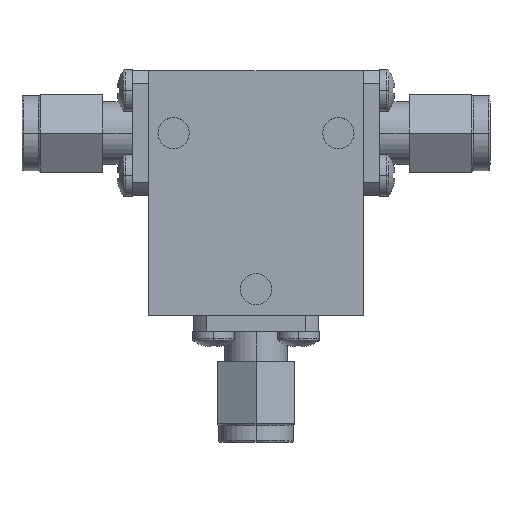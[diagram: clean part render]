
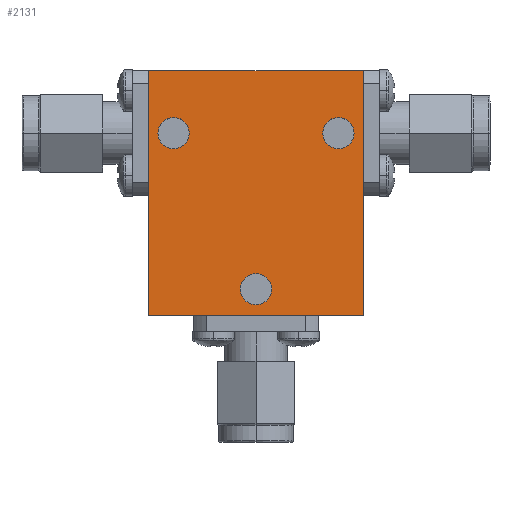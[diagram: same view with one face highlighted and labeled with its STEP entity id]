
A CAD part, top view. The second image highlights one B-rep face of the part: STEP entity #2131.
In plain terms, the highlighted planar face has unit normal (0, 0, 1) as drawn and (0, 0, -1) by its records, which use the part's own axes.
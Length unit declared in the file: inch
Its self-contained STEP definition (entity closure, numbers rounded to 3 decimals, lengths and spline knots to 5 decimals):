
#77 = LINE ( 'NONE', #1106, #392 ) ;
#78 = VERTEX_POINT ( 'NONE', #2729 ) ;
#102 = VECTOR ( 'NONE', #2471, 39.37008 ) ;
#125 = EDGE_CURVE ( 'NONE', #1707, #1339, #1255, .T. ) ;
#160 = DIRECTION ( 'NONE',  ( 1., 0., 0. ) ) ;
#164 = VERTEX_POINT ( 'NONE', #3027 ) ;
#223 = ORIENTED_EDGE ( 'NONE', *, *, #3215, .F. ) ;
#238 = VERTEX_POINT ( 'NONE', #3048 ) ;
#267 = CARTESIAN_POINT ( 'NONE',  ( -0.33, 0.24, -0.25 ) ) ;
#287 = VECTOR ( 'NONE', #1264, 39.37008 ) ;
#294 = DIRECTION ( 'NONE',  ( 0., -1., 0. ) ) ;
#311 = EDGE_CURVE ( 'NONE', #2866, #2734, #3287, .T. ) ;
#329 = EDGE_CURVE ( 'NONE', #2734, #2866, #2590, .T. ) ;
#392 = VECTOR ( 'NONE', #294, 39.37008 ) ;
#410 = CARTESIAN_POINT ( 'NONE',  ( -0.3925, 0.24, -0.25 ) ) ;
#495 = CARTESIAN_POINT ( 'NONE',  ( 0., 0., -0.25 ) ) ;
#543 = CARTESIAN_POINT ( 'NONE',  ( -0.43, -0.49, -0.25 ) ) ;
#630 = AXIS2_PLACEMENT_3D ( 'NONE', #495, #2723, #1752 ) ;
#671 = CARTESIAN_POINT ( 'NONE',  ( 0., -0.385, -0.25 ) ) ;
#748 = CIRCLE ( 'NONE', #899, 0.0625 ) ;
#766 = ORIENTED_EDGE ( 'NONE', *, *, #329, .T. ) ;
#793 = EDGE_CURVE ( 'NONE', #164, #1815, #1653, .T. ) ;
#801 = CARTESIAN_POINT ( 'NONE',  ( -0.2675, 0.24, -0.25 ) ) ;
#850 = CARTESIAN_POINT ( 'NONE',  ( 0.2675, 0.24, -0.25 ) ) ;
#897 = CARTESIAN_POINT ( 'NONE',  ( 0.33, 0.24, -0.25 ) ) ;
#899 = AXIS2_PLACEMENT_3D ( 'NONE', #897, #2666, #1636 ) ;
#978 = CARTESIAN_POINT ( 'NONE',  ( 0.43, -0.49, -0.25 ) ) ;
#1050 = CARTESIAN_POINT ( 'NONE',  ( -0.33, 0.24, -0.25 ) ) ;
#1106 = CARTESIAN_POINT ( 'NONE',  ( -0.43, 0.49, -0.25 ) ) ;
#1118 = VERTEX_POINT ( 'NONE', #1866 ) ;
#1119 = ORIENTED_EDGE ( 'NONE', *, *, #2506, .T. ) ;
#1184 = CARTESIAN_POINT ( 'NONE',  ( 0., -0.385, -0.25 ) ) ;
#1207 = EDGE_CURVE ( 'NONE', #2769, #78, #2704, .T. ) ;
#1255 = LINE ( 'NONE', #2272, #287 ) ;
#1264 = DIRECTION ( 'NONE',  ( 1., 0., 0. ) ) ;
#1287 = CARTESIAN_POINT ( 'NONE',  ( -0.0625, -0.385, -0.25 ) ) ;
#1291 = AXIS2_PLACEMENT_3D ( 'NONE', #1488, #3278, #2229 ) ;
#1311 = DIRECTION ( 'NONE',  ( 0., 0., 1. ) ) ;
#1321 = FACE_BOUND ( 'NONE', #3147, .T. ) ;
#1339 = VERTEX_POINT ( 'NONE', #978 ) ;
#1432 = ORIENTED_EDGE ( 'NONE', *, *, #2595, .T. ) ;
#1463 = LINE ( 'NONE', #2974, #102 ) ;
#1465 = AXIS2_PLACEMENT_3D ( 'NONE', #1184, #3251, #1716 ) ;
#1472 = EDGE_LOOP ( 'NONE', ( #2333, #2377, #3184, #223 ) ) ;
#1488 = CARTESIAN_POINT ( 'NONE',  ( 0.33, 0.24, -0.25 ) ) ;
#1495 = EDGE_CURVE ( 'NONE', #1339, #238, #1863, .T. ) ;
#1542 = DIRECTION ( 'NONE',  ( 0., 1., 0. ) ) ;
#1581 = DIRECTION ( 'NONE',  ( 0., 0., 1. ) ) ;
#1613 = EDGE_LOOP ( 'NONE', ( #1432, #3249 ) ) ;
#1636 = DIRECTION ( 'NONE',  ( 1., 0., 0. ) ) ;
#1653 = CIRCLE ( 'NONE', #1291, 0.0625 ) ;
#1707 = VERTEX_POINT ( 'NONE', #543 ) ;
#1716 = DIRECTION ( 'NONE',  ( 1., 0., 0. ) ) ;
#1752 = DIRECTION ( 'NONE',  ( 1., 0., 0. ) ) ;
#1795 = DIRECTION ( 'NONE',  ( 1., 0., 0. ) ) ;
#1807 = EDGE_CURVE ( 'NONE', #1118, #1707, #77, .T. ) ;
#1815 = VERTEX_POINT ( 'NONE', #850 ) ;
#1863 = LINE ( 'NONE', #2559, #3023 ) ;
#1866 = CARTESIAN_POINT ( 'NONE',  ( -0.43, 0.49, -0.25 ) ) ;
#1920 = ORIENTED_EDGE ( 'NONE', *, *, #793, .T. ) ;
#2024 = AXIS2_PLACEMENT_3D ( 'NONE', #1050, #1311, #2550 ) ;
#2108 = FACE_BOUND ( 'NONE', #2756, .T. ) ;
#2131 = ADVANCED_FACE ( 'NONE', ( #2108, #2694, #1321, #2738 ), #2767, .F. ) ;
#2229 = DIRECTION ( 'NONE',  ( 1., 0., 0. ) ) ;
#2272 = CARTESIAN_POINT ( 'NONE',  ( -0.43, -0.49, -0.25 ) ) ;
#2333 = ORIENTED_EDGE ( 'NONE', *, *, #1495, .F. ) ;
#2377 = ORIENTED_EDGE ( 'NONE', *, *, #125, .F. ) ;
#2387 = AXIS2_PLACEMENT_3D ( 'NONE', #671, #3226, #160 ) ;
#2430 = AXIS2_PLACEMENT_3D ( 'NONE', #267, #1581, #1795 ) ;
#2451 = CIRCLE ( 'NONE', #1465, 0.0625 ) ;
#2471 = DIRECTION ( 'NONE',  ( -1., 0., 0. ) ) ;
#2506 = EDGE_CURVE ( 'NONE', #1815, #164, #748, .T. ) ;
#2550 = DIRECTION ( 'NONE',  ( 1., 0., 0. ) ) ;
#2559 = CARTESIAN_POINT ( 'NONE',  ( 0.43, 0.49, -0.25 ) ) ;
#2590 = CIRCLE ( 'NONE', #2430, 0.0625 ) ;
#2595 = EDGE_CURVE ( 'NONE', #78, #2769, #2451, .T. ) ;
#2666 = DIRECTION ( 'NONE',  ( 0., 0., 1. ) ) ;
#2694 = FACE_BOUND ( 'NONE', #1613, .T. ) ;
#2704 = CIRCLE ( 'NONE', #2387, 0.0625 ) ;
#2723 = DIRECTION ( 'NONE',  ( 0., 0., 1. ) ) ;
#2729 = CARTESIAN_POINT ( 'NONE',  ( 0.0625, -0.385, -0.25 ) ) ;
#2734 = VERTEX_POINT ( 'NONE', #410 ) ;
#2738 = FACE_OUTER_BOUND ( 'NONE', #1472, .T. ) ;
#2756 = EDGE_LOOP ( 'NONE', ( #1920, #1119 ) ) ;
#2767 = PLANE ( 'NONE',  #630 ) ;
#2769 = VERTEX_POINT ( 'NONE', #1287 ) ;
#2866 = VERTEX_POINT ( 'NONE', #801 ) ;
#2974 = CARTESIAN_POINT ( 'NONE',  ( -0.43, 0.49, -0.25 ) ) ;
#3023 = VECTOR ( 'NONE', #1542, 39.37008 ) ;
#3027 = CARTESIAN_POINT ( 'NONE',  ( 0.3925, 0.24, -0.25 ) ) ;
#3048 = CARTESIAN_POINT ( 'NONE',  ( 0.43, 0.49, -0.25 ) ) ;
#3145 = ORIENTED_EDGE ( 'NONE', *, *, #311, .T. ) ;
#3147 = EDGE_LOOP ( 'NONE', ( #3145, #766 ) ) ;
#3184 = ORIENTED_EDGE ( 'NONE', *, *, #1807, .F. ) ;
#3215 = EDGE_CURVE ( 'NONE', #238, #1118, #1463, .T. ) ;
#3226 = DIRECTION ( 'NONE',  ( 0., 0., 1. ) ) ;
#3249 = ORIENTED_EDGE ( 'NONE', *, *, #1207, .T. ) ;
#3251 = DIRECTION ( 'NONE',  ( 0., 0., 1. ) ) ;
#3278 = DIRECTION ( 'NONE',  ( 0., 0., 1. ) ) ;
#3287 = CIRCLE ( 'NONE', #2024, 0.0625 ) ;
